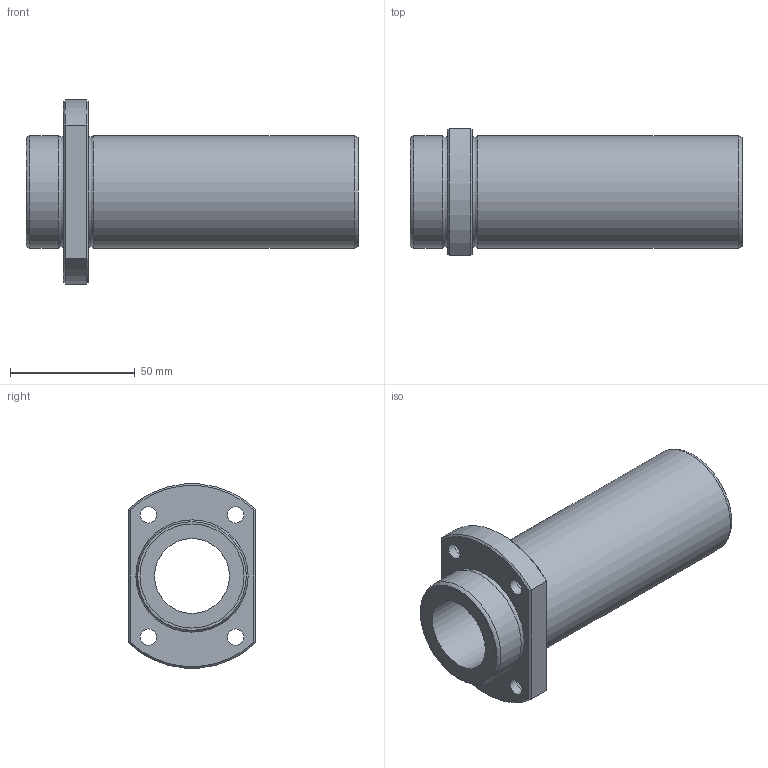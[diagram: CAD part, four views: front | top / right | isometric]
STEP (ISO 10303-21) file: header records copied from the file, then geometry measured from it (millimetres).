
FILE_DESCRIPTION((''),'2;1');
FILE_NAME('D:\製品 (図面)\カタログ用3D\メンテナンスフリー関連\STEP形式\LFDTB-MF\LFDTB30MF.stp','2010-06-01T15:47:37',('Tsuchiya'),(''),'Autodesk Inventor 10','Autodesk Inventor 10','');
FILE_SCHEMA(('AUTOMOTIVE_DESIGN { 1 0 10303 214 1 1 1 1 }'));
Length unit declared in the file: millimetre
Products named in the file (1): LFDTB30MF
Bounding box: 133 x 51 x 73.74 mm (x, y, z)
Volume: 132565.5 mm3; surface area: 38318.1 mm2
Topology: 1 solids, 1 shells, 39 faces, 75 edges, 46 vertices
Faces by surface type: bspline 14, plane 12, cylinder 7, cone 4, torus 2
Full cylindrical faces by diameter (mm): 30 x1, 41.7 x2, 45 x2
Entity records: 1177 total; most frequent: CARTESIAN_POINT 440, DIRECTION 140, ORIENTED_EDGE 116, EDGE_LOOP 74, AXIS2_PLACEMENT_3D 64, EDGE_CURVE 58, VERTEX_POINT 46, FACE_OUTER_BOUND 39
